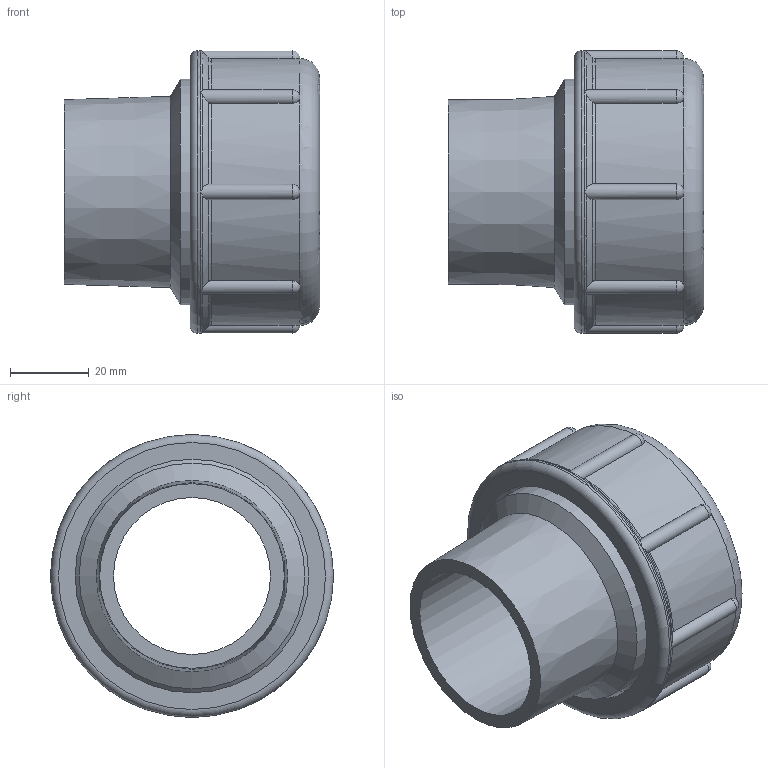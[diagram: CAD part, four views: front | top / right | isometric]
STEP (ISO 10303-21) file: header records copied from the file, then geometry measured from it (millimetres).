
FILE_DESCRIPTION( ( 'STEP AP214' ), '1' );
FILE_NAME( 'C:/Users/ilukic/Documents/ex/gebaudeentwasserung/pe/Geberit PE straight adapter with male thread and compression joint/359309.stp', '2020-03-26T18:42:11', ( '' ), ( '' ), ' ', 'PARTsolutions', ' ' );
FILE_SCHEMA( ( 'AUTOMOTIVE_DESIGN { 1 0 10303 214 1 1 1 1 }' ) );
Length unit declared in the file: millimetre
Products named in the file (1): _359309
Bounding box: 65 x 72 x 72 mm (x, y, z)
Volume: 75503.5 mm3; surface area: 28074.1 mm2
Topology: 1 solids, 1 shells, 68 faces, 170 edges, 99 vertices
Faces by surface type: cylinder 23, torus 20, cone 12, sphere 8, plane 5
Full cylindrical faces by diameter (mm): 40 x1, 49.6 x2, 55.6 x1, 57.471 x1, 59.471 x1, 72 x1
Entity records: 2886 total; most frequent: CARTESIAN_POINT 883, ORIENTED_EDGE 294, DIRECTION 288, EDGE_CURVE 147, AXIS2_PLACEMENT_3D 136, VERTEX_POINT 99, EDGE_LOOP 88, FACE_OUTER_BOUND 79
